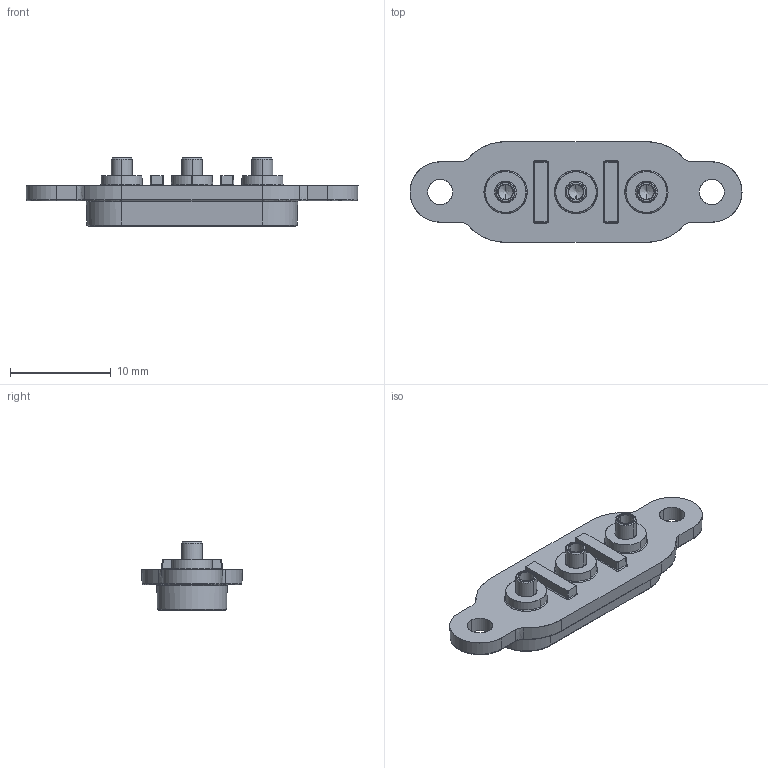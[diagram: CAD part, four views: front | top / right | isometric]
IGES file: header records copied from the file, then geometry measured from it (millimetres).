
Start section: SolidWorks IGES file using analytic representation for surfaces
Global section: file name: F:\OneDrive\Desktop\Coda\28.7\Swift-Dock add 3D\Swift-Dock add 3D\Swift-DOCK Ranges Completed\SD\Swift-Dock-3-L.IGS; native system: SolidWorks 2021; preprocessor: SolidWorks 2021; author: Georg; date: 210806.112210; units: millimetre
Bounding box: 33 x 10 x 6.76 mm (x, y, z)
Surface area: 1154.7 mm2 (no closed solid volume)
Topology: 0 solids, 0 shells, 205 faces, 2184 edges, 2178 vertices
Faces by surface type: revolution 128, bspline 77
